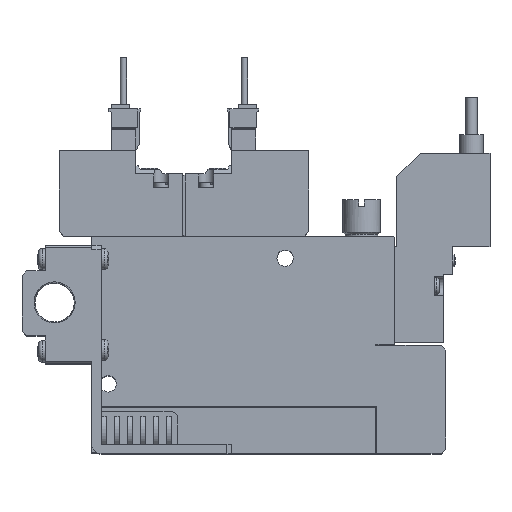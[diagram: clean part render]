
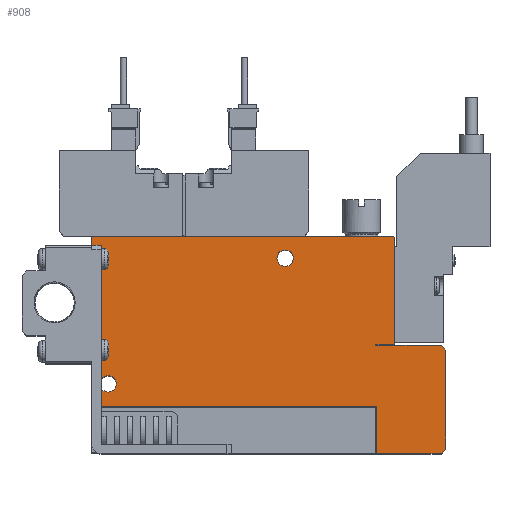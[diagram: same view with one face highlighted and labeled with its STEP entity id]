
A CAD part, top view. The second image highlights one B-rep face of the part: STEP entity #908.
In plain terms, the highlighted planar face has unit normal (0, 0, 1).
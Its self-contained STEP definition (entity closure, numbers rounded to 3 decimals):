
#908=ADVANCED_FACE('',(#2107,#2108,#2109),#2110,.F.);
#2107=FACE_OUTER_BOUND('',#3684,.T.);
#2108=FACE_BOUND('',#3685,.T.);
#2109=FACE_BOUND('',#3686,.T.);
#2110=PLANE('',#3687);
#3684=EDGE_LOOP('',(#7930,#7931,#7932,#7933,#7934,#7935,#7936,#7937,#7938,#7939,#7940,#7941,#7942,#7943));
#3685=EDGE_LOOP('',(#7944));
#3686=EDGE_LOOP('',(#7945));
#3687=AXIS2_PLACEMENT_3D('',#7946,#7947,#7948);
#7930=ORIENTED_EDGE('',*,*,#11002,.T.);
#7931=ORIENTED_EDGE('',*,*,#10760,.F.);
#7932=ORIENTED_EDGE('',*,*,#11006,.F.);
#7933=ORIENTED_EDGE('',*,*,#11007,.T.);
#7934=ORIENTED_EDGE('',*,*,#11008,.T.);
#7935=ORIENTED_EDGE('',*,*,#10986,.T.);
#7936=ORIENTED_EDGE('',*,*,#10802,.T.);
#7937=ORIENTED_EDGE('',*,*,#10907,.T.);
#7938=ORIENTED_EDGE('',*,*,#10758,.T.);
#7939=ORIENTED_EDGE('',*,*,#11004,.T.);
#7940=ORIENTED_EDGE('',*,*,#10822,.T.);
#7941=ORIENTED_EDGE('',*,*,#10985,.T.);
#7942=ORIENTED_EDGE('',*,*,#10794,.T.);
#7943=ORIENTED_EDGE('',*,*,#10638,.T.);
#7944=ORIENTED_EDGE('',*,*,#10772,.F.);
#7945=ORIENTED_EDGE('',*,*,#10730,.F.);
#7946=CARTESIAN_POINT('',(0.0,0.0,5.0));
#7947=DIRECTION('',(0.0,0.0,-1.0));
#7948=DIRECTION('',(0.0,-1.0,0.0));
#10638=EDGE_CURVE('',#12906,#12904,#12907,.T.);
#10730=EDGE_CURVE('',#13082,#13082,#13083,.T.);
#10758=EDGE_CURVE('',#13133,#13131,#13134,.T.);
#10760=EDGE_CURVE('',#13136,#13137,#13138,.T.);
#10772=EDGE_CURVE('',#13159,#13159,#13160,.T.);
#10794=EDGE_CURVE('',#13199,#12906,#13200,.T.);
#10802=EDGE_CURVE('',#13213,#13211,#13214,.T.);
#10822=EDGE_CURVE('',#13248,#13246,#13249,.T.);
#10907=EDGE_CURVE('',#13211,#13133,#13381,.T.);
#10985=EDGE_CURVE('',#13246,#13199,#13493,.T.);
#10986=EDGE_CURVE('',#13494,#13213,#13495,.T.);
#11002=EDGE_CURVE('',#12904,#13137,#13515,.T.);
#11004=EDGE_CURVE('',#13131,#13248,#13517,.T.);
#11006=EDGE_CURVE('',#13519,#13136,#13520,.T.);
#11007=EDGE_CURVE('',#13519,#13521,#13522,.T.);
#11008=EDGE_CURVE('',#13521,#13494,#13523,.T.);
#12904=VERTEX_POINT('',#16704);
#12906=VERTEX_POINT('',#16707);
#12907=LINE('',#16708,#16709);
#13082=VERTEX_POINT('',#16993);
#13083=CIRCLE('',#16994,1.75);
#13131=VERTEX_POINT('',#17087);
#13133=VERTEX_POINT('',#17090);
#13134=LINE('',#17091,#17092);
#13136=VERTEX_POINT('',#17095);
#13137=VERTEX_POINT('',#17096);
#13138=LINE('',#17097,#17098);
#13159=VERTEX_POINT('',#17128);
#13160=CIRCLE('',#17129,1.75);
#13199=VERTEX_POINT('',#17201);
#13200=LINE('',#17202,#17203);
#13211=VERTEX_POINT('',#17219);
#13213=VERTEX_POINT('',#17222);
#13214=LINE('',#17223,#17224);
#13246=VERTEX_POINT('',#17280);
#13248=VERTEX_POINT('',#17283);
#13249=LINE('',#17284,#17285);
#13381=LINE('',#17538,#17539);
#13493=LINE('',#17733,#17734);
#13494=VERTEX_POINT('',#17735);
#13495=LINE('',#17736,#17737);
#13515=LINE('',#17771,#17772);
#13517=LINE('',#17775,#17776);
#13519=VERTEX_POINT('',#17779);
#13520=LINE('',#17780,#17781);
#13521=VERTEX_POINT('',#17782);
#13522=LINE('',#17783,#17784);
#13523=LINE('',#17785,#17786);
#16704=CARTESIAN_POINT('',(0.0,46.4,5.0));
#16707=CARTESIAN_POINT('',(0.2,46.6,5.0));
#16708=CARTESIAN_POINT('',(0.2,46.6,5.0));
#16709=VECTOR('',#20887,1.0);
#16993=CARTESIAN_POINT('',(43.25,42.0,5.0));
#16994=AXIS2_PLACEMENT_3D('',#21024,#21025,#21026);
#17087=CARTESIAN_POINT('',(61.0,23.5,5.0));
#17090=CARTESIAN_POINT('',(61.0,23.25,5.0));
#17091=CARTESIAN_POINT('',(61.0,23.25,5.0));
#17092=VECTOR('',#21063,1.0);
#17095=CARTESIAN_POINT('',(61.1,10.1,5.0));
#17096=CARTESIAN_POINT('',(0.0,10.1,5.0));
#17097=CARTESIAN_POINT('',(61.1,10.1,5.0));
#17098=VECTOR('',#21065,1.0);
#17128=CARTESIAN_POINT('',(5.25,15.0,5.0));
#17129=AXIS2_PLACEMENT_3D('',#21081,#21082,#21083);
#17201=CARTESIAN_POINT('',(64.8,46.6,5.0));
#17202=CARTESIAN_POINT('',(64.8,46.6,5.0));
#17203=VECTOR('',#21113,1.0);
#17219=CARTESIAN_POINT('',(75.0,23.25,5.0));
#17222=CARTESIAN_POINT('',(76.0,22.25,5.0));
#17223=CARTESIAN_POINT('',(76.0,22.25,5.0));
#17224=VECTOR('',#21123,1.0);
#17280=CARTESIAN_POINT('',(65.0,46.4,5.0));
#17283=CARTESIAN_POINT('',(65.0,23.5,5.0));
#17284=CARTESIAN_POINT('',(65.0,23.5,5.0));
#17285=VECTOR('',#21148,1.0);
#17538=CARTESIAN_POINT('',(75.0,23.25,5.0));
#17539=VECTOR('',#21253,1.0);
#17733=CARTESIAN_POINT('',(65.0,46.4,5.0));
#17734=VECTOR('',#21355,1.0);
#17735=CARTESIAN_POINT('',(76.0,1.0,5.0));
#17736=CARTESIAN_POINT('',(76.0,1.0,5.0));
#17737=VECTOR('',#21356,1.0);
#17771=CARTESIAN_POINT('',(0.0,46.4,5.0));
#17772=VECTOR('',#21374,1.0);
#17775=CARTESIAN_POINT('',(61.0,23.5,5.0));
#17776=VECTOR('',#21376,1.0);
#17779=CARTESIAN_POINT('',(61.1,0.0,5.0));
#17780=CARTESIAN_POINT('',(61.1,0.0,5.0));
#17781=VECTOR('',#21378,1.0);
#17782=CARTESIAN_POINT('',(75.0,0.0,5.0));
#17783=CARTESIAN_POINT('',(0.0,0.0,5.0));
#17784=VECTOR('',#21379,1.0);
#17785=CARTESIAN_POINT('',(75.0,0.0,5.0));
#17786=VECTOR('',#21380,1.0);
#20887=DIRECTION('',(-0.707,-0.707,0.0));
#21024=CARTESIAN_POINT('',(41.5,42.0,5.0));
#21025=DIRECTION('',(0.0,0.0,1.0));
#21026=DIRECTION('',(1.0,0.0,0.0));
#21063=DIRECTION('',(0.0,1.0,0.0));
#21065=DIRECTION('',(-1.0,0.0,0.0));
#21081=CARTESIAN_POINT('',(3.5,15.0,5.0));
#21082=DIRECTION('',(0.0,0.0,1.0));
#21083=DIRECTION('',(1.0,0.0,0.0));
#21113=DIRECTION('',(-1.0,0.0,0.0));
#21123=DIRECTION('',(-0.707,0.707,0.0));
#21148=DIRECTION('',(0.0,1.0,0.0));
#21253=DIRECTION('',(-1.0,0.0,0.0));
#21355=DIRECTION('',(-0.707,0.707,0.0));
#21356=DIRECTION('',(0.0,1.0,0.0));
#21374=DIRECTION('',(0.0,-1.0,0.0));
#21376=DIRECTION('',(1.0,0.,0.0));
#21378=DIRECTION('',(0.0,1.0,0.0));
#21379=DIRECTION('',(1.0,0.0,0.0));
#21380=DIRECTION('',(0.707,0.707,0.0));
